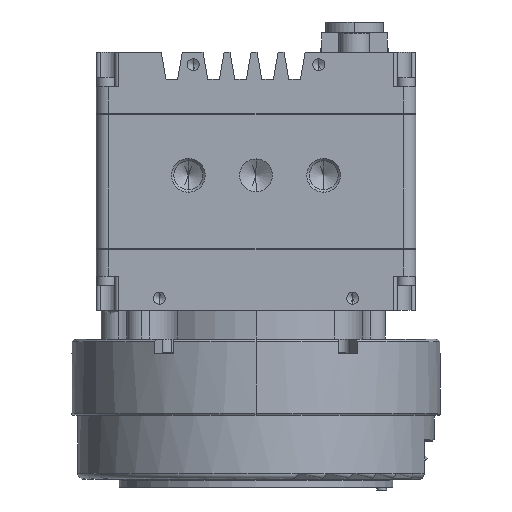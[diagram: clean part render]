
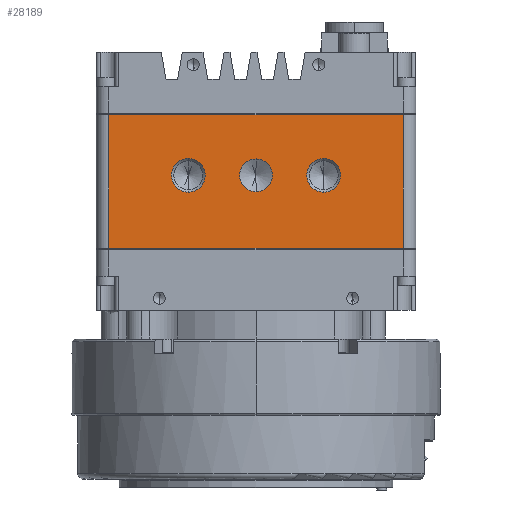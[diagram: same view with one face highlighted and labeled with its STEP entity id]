
A CAD part, front view. The second image highlights one B-rep face of the part: STEP entity #28189.
In plain terms, the highlighted planar face has unit normal (0, -1, 0).
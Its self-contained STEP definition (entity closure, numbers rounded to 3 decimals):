
#715 = AXIS2_PLACEMENT_3D ( 'NONE', #38979, #11444, #20096 ) ;
#918 = VERTEX_POINT ( 'NONE', #56619 ) ;
#1523 = DIRECTION ( 'NONE',  ( 0., -1., 0. ) ) ;
#3210 = ORIENTED_EDGE ( 'NONE', *, *, #36603, .T. ) ;
#4009 = CIRCLE ( 'NONE', #715, 3.5 ) ;
#4301 = EDGE_CURVE ( 'NONE', #918, #36306, #52830, .T. ) ;
#4389 = VECTOR ( 'NONE', #11323, 1000. ) ;
#5395 = CARTESIAN_POINT ( 'NONE',  ( -30.48, -26.67, -0.127 ) ) ;
#7515 = FACE_BOUND ( 'NONE', #22592, .T. ) ;
#8013 = LINE ( 'NONE', #57177, #4389 ) ;
#9078 = CARTESIAN_POINT ( 'NONE',  ( 0., -26.67, -12.7 ) ) ;
#9773 = CARTESIAN_POINT ( 'NONE',  ( 14., -26.67, -9.2 ) ) ;
#10329 = DIRECTION ( 'NONE',  ( 0., 0., -1. ) ) ;
#10427 = FACE_BOUND ( 'NONE', #30323, .T. ) ;
#10820 = LINE ( 'NONE', #37861, #20822 ) ;
#11323 = DIRECTION ( 'NONE',  ( 0., 0., 1. ) ) ;
#11444 = DIRECTION ( 'NONE',  ( 0., -1., 0. ) ) ;
#12675 = CARTESIAN_POINT ( 'NONE',  ( -14., -26.67, -16.2 ) ) ;
#14689 = CARTESIAN_POINT ( 'NONE',  ( 14., -26.67, -16.2 ) ) ;
#15660 = ORIENTED_EDGE ( 'NONE', *, *, #28830, .F. ) ;
#16221 = VERTEX_POINT ( 'NONE', #41507 ) ;
#17061 = CARTESIAN_POINT ( 'NONE',  ( -30.48, -26.67, -0.127 ) ) ;
#17891 = VERTEX_POINT ( 'NONE', #14689 ) ;
#18937 = EDGE_CURVE ( 'NONE', #16221, #46396, #50450, .T. ) ;
#19106 = ORIENTED_EDGE ( 'NONE', *, *, #18937, .F. ) ;
#20096 = DIRECTION ( 'NONE',  ( 0., 0., -1. ) ) ;
#20503 = CARTESIAN_POINT ( 'NONE',  ( 14., -26.67, -12.7 ) ) ;
#20701 = CARTESIAN_POINT ( 'NONE',  ( -14., -26.67, -9.2 ) ) ;
#20727 = AXIS2_PLACEMENT_3D ( 'NONE', #29163, #42800, #33181 ) ;
#20822 = VECTOR ( 'NONE', #10329, 1000. ) ;
#21688 = DIRECTION ( 'NONE',  ( -1., 0., 0. ) ) ;
#21982 = AXIS2_PLACEMENT_3D ( 'NONE', #28154, #37196, #41808 ) ;
#22592 = EDGE_LOOP ( 'NONE', ( #15660, #38377 ) ) ;
#24386 = CARTESIAN_POINT ( 'NONE',  ( 14., -26.67, -12.7 ) ) ;
#24604 = DIRECTION ( 'NONE',  ( 0., 1., 0. ) ) ;
#24933 = DIRECTION ( 'NONE',  ( 0., 0., -1. ) ) ;
#26477 = EDGE_CURVE ( 'NONE', #50000, #27316, #4009, .T. ) ;
#26523 = VERTEX_POINT ( 'NONE', #37820 ) ;
#27316 = VERTEX_POINT ( 'NONE', #12675 ) ;
#27664 = AXIS2_PLACEMENT_3D ( 'NONE', #24386, #1523, #43230 ) ;
#28154 = CARTESIAN_POINT ( 'NONE',  ( 0., -26.67, -12.7 ) ) ;
#28189 = ADVANCED_FACE ( 'NONE', ( #41288, #10427, #7515, #59319 ), #34419, .F. ) ;
#28830 = EDGE_CURVE ( 'NONE', #36306, #918, #50615, .T. ) ;
#29163 = CARTESIAN_POINT ( 'NONE',  ( -14., -26.67, -12.7 ) ) ;
#30323 = EDGE_LOOP ( 'NONE', ( #53473, #36841 ) ) ;
#30529 = VERTEX_POINT ( 'NONE', #5395 ) ;
#32404 = CIRCLE ( 'NONE', #59444, 3.5 ) ;
#32607 = DIRECTION ( 'NONE',  ( -1., 0., 0. ) ) ;
#33181 = DIRECTION ( 'NONE',  ( 0., 0., -1. ) ) ;
#34419 = PLANE ( 'NONE',  #43883 ) ;
#36306 = VERTEX_POINT ( 'NONE', #59010 ) ;
#36346 = EDGE_CURVE ( 'NONE', #27316, #50000, #48244, .T. ) ;
#36603 = EDGE_CURVE ( 'NONE', #26523, #30529, #58987, .T. ) ;
#36841 = ORIENTED_EDGE ( 'NONE', *, *, #59090, .F. ) ;
#37196 = DIRECTION ( 'NONE',  ( 0., -1., 0. ) ) ;
#37820 = CARTESIAN_POINT ( 'NONE',  ( 30.48, -26.67, -0.127 ) ) ;
#37861 = CARTESIAN_POINT ( 'NONE',  ( -30.48, -26.67, 0. ) ) ;
#38008 = DIRECTION ( 'NONE',  ( 0., -1., 0. ) ) ;
#38145 = EDGE_CURVE ( 'NONE', #16221, #26523, #8013, .T. ) ;
#38377 = ORIENTED_EDGE ( 'NONE', *, *, #4301, .F. ) ;
#38979 = CARTESIAN_POINT ( 'NONE',  ( -14., -26.67, -12.7 ) ) ;
#40068 = VERTEX_POINT ( 'NONE', #9773 ) ;
#41219 = DIRECTION ( 'NONE',  ( 0., -1., 0. ) ) ;
#41288 = FACE_BOUND ( 'NONE', #42826, .T. ) ;
#41390 = ORIENTED_EDGE ( 'NONE', *, *, #26477, .F. ) ;
#41507 = CARTESIAN_POINT ( 'NONE',  ( 30.48, -26.67, -27.813 ) ) ;
#41624 = DIRECTION ( 'NONE',  ( 0., 0., -1. ) ) ;
#41808 = DIRECTION ( 'NONE',  ( 0., 0., -1. ) ) ;
#42800 = DIRECTION ( 'NONE',  ( 0., -1., 0. ) ) ;
#42826 = EDGE_LOOP ( 'NONE', ( #44840, #41390 ) ) ;
#43230 = DIRECTION ( 'NONE',  ( 0., 0., -1. ) ) ;
#43883 = AXIS2_PLACEMENT_3D ( 'NONE', #48074, #24604, #52511 ) ;
#44840 = ORIENTED_EDGE ( 'NONE', *, *, #36346, .F. ) ;
#44862 = EDGE_LOOP ( 'NONE', ( #3210, #52056, #19106, #56493 ) ) ;
#46396 = VERTEX_POINT ( 'NONE', #55115 ) ;
#46750 = VECTOR ( 'NONE', #21688, 1000. ) ;
#48074 = CARTESIAN_POINT ( 'NONE',  ( -33.02, -26.67, 0. ) ) ;
#48244 = CIRCLE ( 'NONE', #20727, 3.5 ) ;
#50000 = VERTEX_POINT ( 'NONE', #20701 ) ;
#50450 = LINE ( 'NONE', #51878, #56941 ) ;
#50615 = CIRCLE ( 'NONE', #21982, 3.378 ) ;
#51878 = CARTESIAN_POINT ( 'NONE',  ( -30.48, -26.67, -27.813 ) ) ;
#52056 = ORIENTED_EDGE ( 'NONE', *, *, #58921, .T. ) ;
#52511 = DIRECTION ( 'NONE',  ( 0., 0., 1. ) ) ;
#52830 = CIRCLE ( 'NONE', #53151, 3.378 ) ;
#53151 = AXIS2_PLACEMENT_3D ( 'NONE', #9078, #41219, #41624 ) ;
#53473 = ORIENTED_EDGE ( 'NONE', *, *, #53674, .F. ) ;
#53674 = EDGE_CURVE ( 'NONE', #17891, #40068, #32404, .T. ) ;
#55115 = CARTESIAN_POINT ( 'NONE',  ( -30.48, -26.67, -27.813 ) ) ;
#56103 = CIRCLE ( 'NONE', #27664, 3.5 ) ;
#56493 = ORIENTED_EDGE ( 'NONE', *, *, #38145, .T. ) ;
#56619 = CARTESIAN_POINT ( 'NONE',  ( 0., -26.67, -9.322 ) ) ;
#56941 = VECTOR ( 'NONE', #32607, 1000. ) ;
#57177 = CARTESIAN_POINT ( 'NONE',  ( 30.48, -26.67, 0. ) ) ;
#58921 = EDGE_CURVE ( 'NONE', #30529, #46396, #10820, .T. ) ;
#58987 = LINE ( 'NONE', #17061, #46750 ) ;
#59010 = CARTESIAN_POINT ( 'NONE',  ( 0., -26.67, -16.078 ) ) ;
#59090 = EDGE_CURVE ( 'NONE', #40068, #17891, #56103, .T. ) ;
#59319 = FACE_OUTER_BOUND ( 'NONE', #44862, .T. ) ;
#59444 = AXIS2_PLACEMENT_3D ( 'NONE', #20503, #38008, #24933 ) ;
